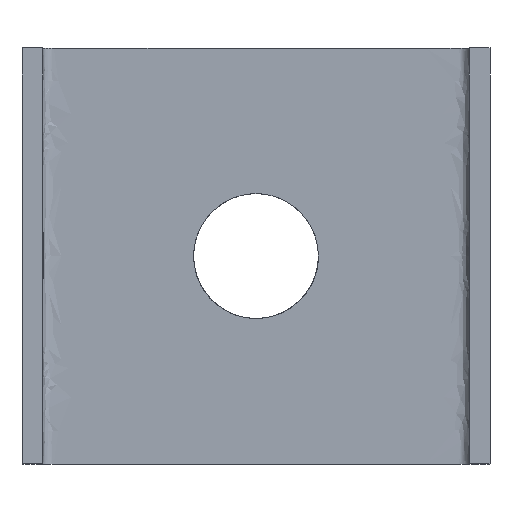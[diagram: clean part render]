
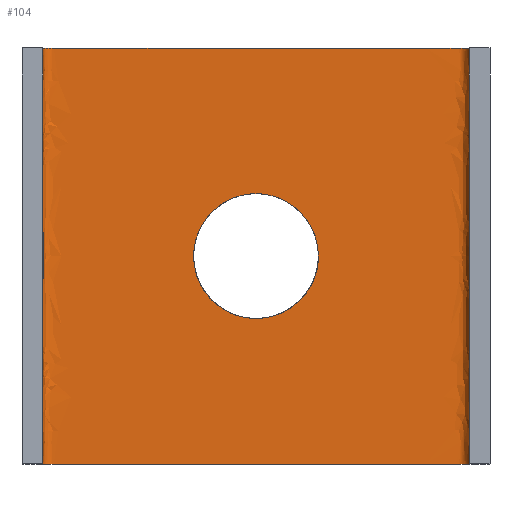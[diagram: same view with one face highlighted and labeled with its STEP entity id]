
A CAD part, top view. The second image highlights one B-rep face of the part: STEP entity #104.
In plain terms, the highlighted free-form (B-spline) face has degree [1, 2] with [2, 11] control points.
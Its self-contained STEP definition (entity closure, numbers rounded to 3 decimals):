
#11=FACE_BOUND($,#123,.T.);
#104=ADVANCED_FACE($,(#113,#11),#246,.T.);
#113=FACE_OUTER_BOUND($,#122,.T.);
#122=EDGE_LOOP($,(#145,#146,#147,#148));
#123=EDGE_LOOP($,(#149));
#145=ORIENTED_EDGE($,*,*,#183,.T.);
#146=ORIENTED_EDGE($,*,*,#185,.T.);
#147=ORIENTED_EDGE($,*,*,#184,.F.);
#148=ORIENTED_EDGE($,*,*,#186,.F.);
#149=ORIENTED_EDGE($,*,*,#187,.F.);
#183=EDGE_CURVE($,#220,#219,#274,.T.);
#184=EDGE_CURVE($,#222,#221,#275,.T.);
#185=EDGE_CURVE($,#219,#221,#256,.T.);
#186=EDGE_CURVE($,#220,#222,#257,.T.);
#187=EDGE_CURVE($,#223,#223,#276,.T.);
#219=VERTEX_POINT($,#466);
#220=VERTEX_POINT($,#467);
#221=VERTEX_POINT($,#468);
#222=VERTEX_POINT($,#469);
#223=VERTEX_POINT($,#470);
#246=(
BOUNDED_SURFACE()
B_SPLINE_SURFACE(1,2,((#444,#445,#446,#447,#448,#449,#450,#451,#452,#453,
#454),(#455,#456,#457,#458,#459,#460,#461,#462,#463,#464,#465)),.UNSPECIFIED.,
.F.,.F.,.F.)
B_SPLINE_SURFACE_WITH_KNOTS((2,2),(3,2,2,2,2,3),(0.,40.),(44.858,
48.858,50.429,89.429,91.,95.),.UNSPECIFIED.)
GEOMETRIC_REPRESENTATION_ITEM()
RATIONAL_B_SPLINE_SURFACE(((1.,1.,1.,0.707,1.,1.,1.,0.707,
1.,1.,1.),(1.,1.,1.,0.707,1.,1.,1.,0.707,1.,1.,1.)))
REPRESENTATION_ITEM($)
SURFACE()
);
#256=B_SPLINE_CURVE_WITH_KNOTS($,1,(#431,#432),.UNSPECIFIED.,.F.,.F.,(2,
2),(0.,40.),.UNSPECIFIED.);
#257=B_SPLINE_CURVE_WITH_KNOTS($,1,(#433,#434),.UNSPECIFIED.,.F.,.F.,(2,
2),(0.,40.),.UNSPECIFIED.);
#274=(
BOUNDED_CURVE()
B_SPLINE_CURVE(2,(#409,#410,#411,#412,#413,#414,#415,#416,#417,#418,#419),
.UNSPECIFIED.,.F.,.F.)
B_SPLINE_CURVE_WITH_KNOTS((3,2,2,2,2,3),(-95.,-91.,-89.429,-50.429,
-48.858,-44.858),.UNSPECIFIED.)
CURVE()
GEOMETRIC_REPRESENTATION_ITEM()
RATIONAL_B_SPLINE_CURVE((1.,1.,1.,0.707,1.,1.,1.,0.707,
1.,1.,1.))
REPRESENTATION_ITEM($)
);
#275=(
BOUNDED_CURVE()
B_SPLINE_CURVE(2,(#420,#421,#422,#423,#424,#425,#426,#427,#428,#429,#430),
.UNSPECIFIED.,.F.,.F.)
B_SPLINE_CURVE_WITH_KNOTS((3,2,2,2,2,3),(-95.,-91.,-89.429,-50.429,
-48.858,-44.858),.UNSPECIFIED.)
CURVE()
GEOMETRIC_REPRESENTATION_ITEM()
RATIONAL_B_SPLINE_CURVE((1.,1.,1.,0.707,1.,1.,1.,0.707,
1.,1.,1.))
REPRESENTATION_ITEM($)
);
#276=(
BOUNDED_CURVE()
B_SPLINE_CURVE(2,(#435,#436,#437,#438,#439,#440,#441,#442,#443),.UNSPECIFIED.,
.T.,.F.)
B_SPLINE_CURVE_WITH_KNOTS((3,2,2,2,3),(-37.695,-28.272,
-18.848,-9.424,0.),.UNSPECIFIED.)
CURVE()
GEOMETRIC_REPRESENTATION_ITEM()
RATIONAL_B_SPLINE_CURVE((1.,0.707,1.,0.707,1.,0.707,
1.,0.707,1.))
REPRESENTATION_ITEM($)
);
#409=CARTESIAN_POINT($,(-20.5,-20.,7.));
#410=CARTESIAN_POINT($,(-20.5,-20.,5.));
#411=CARTESIAN_POINT($,(-20.5,-20.,3.));
#412=CARTESIAN_POINT($,(-20.5,-20.,2.));
#413=CARTESIAN_POINT($,(-19.5,-20.,2.));
#414=CARTESIAN_POINT($,(0.,-20.,2.));
#415=CARTESIAN_POINT($,(19.5,-20.,2.));
#416=CARTESIAN_POINT($,(20.5,-20.,2.));
#417=CARTESIAN_POINT($,(20.5,-20.,3.));
#418=CARTESIAN_POINT($,(20.5,-20.,5.));
#419=CARTESIAN_POINT($,(20.5,-20.,7.));
#420=CARTESIAN_POINT($,(-20.5,20.,7.));
#421=CARTESIAN_POINT($,(-20.5,20.,5.));
#422=CARTESIAN_POINT($,(-20.5,20.,3.));
#423=CARTESIAN_POINT($,(-20.5,20.,2.));
#424=CARTESIAN_POINT($,(-19.5,20.,2.));
#425=CARTESIAN_POINT($,(0.,20.,2.));
#426=CARTESIAN_POINT($,(19.5,20.,2.));
#427=CARTESIAN_POINT($,(20.5,20.,2.));
#428=CARTESIAN_POINT($,(20.5,20.,3.));
#429=CARTESIAN_POINT($,(20.5,20.,5.));
#430=CARTESIAN_POINT($,(20.5,20.,7.));
#431=CARTESIAN_POINT($,(20.5,-20.,7.));
#432=CARTESIAN_POINT($,(20.5,20.,7.));
#433=CARTESIAN_POINT($,(-20.5,-20.,7.));
#434=CARTESIAN_POINT($,(-20.5,20.,7.));
#435=CARTESIAN_POINT($,(6.,0.,2.));
#436=CARTESIAN_POINT($,(6.,6.,2.));
#437=CARTESIAN_POINT($,(0.,6.,2.));
#438=CARTESIAN_POINT($,(-6.,6.,2.));
#439=CARTESIAN_POINT($,(-6.,0.,2.));
#440=CARTESIAN_POINT($,(-6.,-6.,2.));
#441=CARTESIAN_POINT($,(0.,-6.,2.));
#442=CARTESIAN_POINT($,(6.,-6.,2.));
#443=CARTESIAN_POINT($,(6.,0.,2.));
#444=CARTESIAN_POINT($,(20.5,-20.,7.));
#445=CARTESIAN_POINT($,(20.5,-20.,5.));
#446=CARTESIAN_POINT($,(20.5,-20.,3.));
#447=CARTESIAN_POINT($,(20.5,-20.,2.));
#448=CARTESIAN_POINT($,(19.5,-20.,2.));
#449=CARTESIAN_POINT($,(0.,-20.,2.));
#450=CARTESIAN_POINT($,(-19.5,-20.,2.));
#451=CARTESIAN_POINT($,(-20.5,-20.,2.));
#452=CARTESIAN_POINT($,(-20.5,-20.,3.));
#453=CARTESIAN_POINT($,(-20.5,-20.,5.));
#454=CARTESIAN_POINT($,(-20.5,-20.,7.));
#455=CARTESIAN_POINT($,(20.5,20.,7.));
#456=CARTESIAN_POINT($,(20.5,20.,5.));
#457=CARTESIAN_POINT($,(20.5,20.,3.));
#458=CARTESIAN_POINT($,(20.5,20.,2.));
#459=CARTESIAN_POINT($,(19.5,20.,2.));
#460=CARTESIAN_POINT($,(0.,20.,2.));
#461=CARTESIAN_POINT($,(-19.5,20.,2.));
#462=CARTESIAN_POINT($,(-20.5,20.,2.));
#463=CARTESIAN_POINT($,(-20.5,20.,3.));
#464=CARTESIAN_POINT($,(-20.5,20.,5.));
#465=CARTESIAN_POINT($,(-20.5,20.,7.));
#466=CARTESIAN_POINT($,(20.5,-20.,7.));
#467=CARTESIAN_POINT($,(-20.5,-20.,7.));
#468=CARTESIAN_POINT($,(20.5,20.,7.));
#469=CARTESIAN_POINT($,(-20.5,20.,7.));
#470=CARTESIAN_POINT($,(6.,0.,2.));
